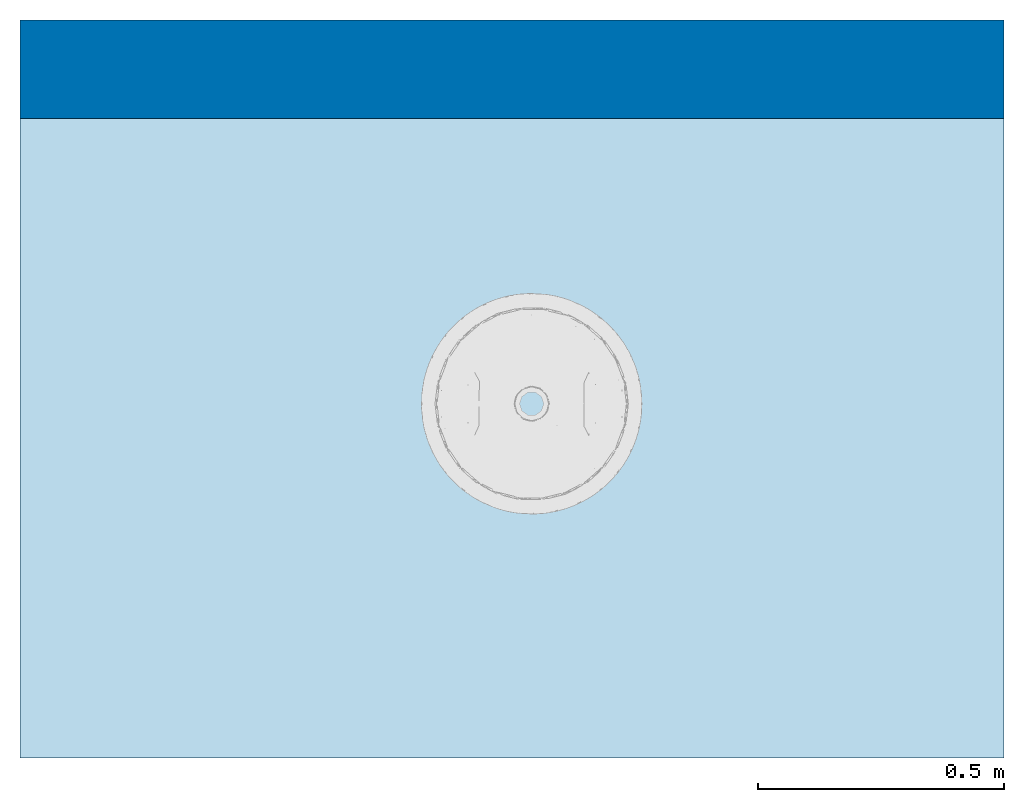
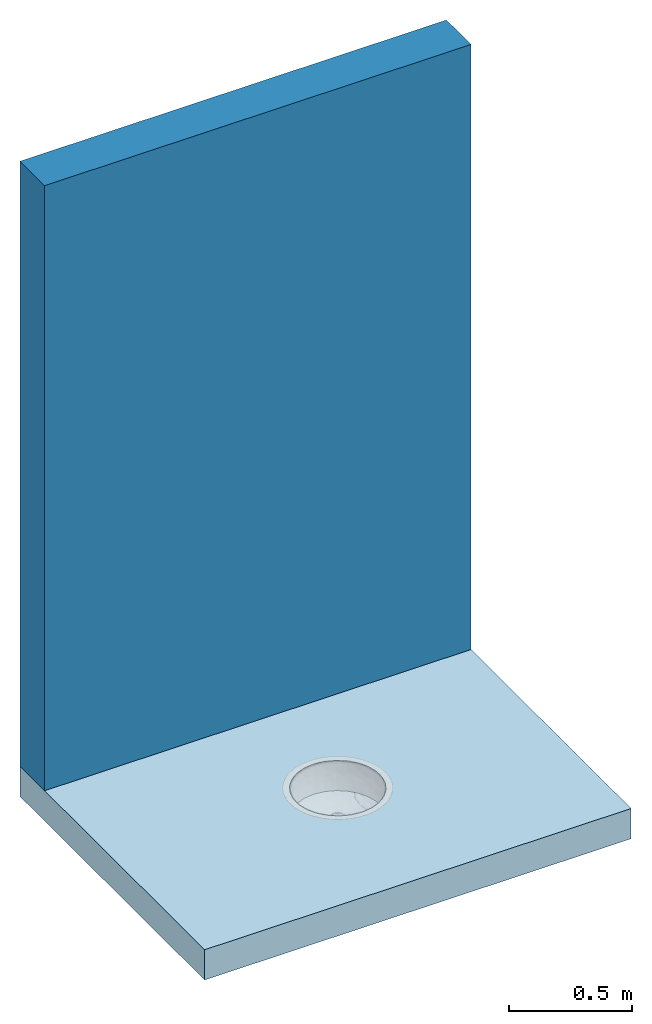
# One storey, incomplete: 1 slab, 1 wall, 1 opening.
"""IFC2X3 building model written with IfcOpenShell, lengths in millimetres."""

from ifc_helpers import new_model, entity, si_unit, converted_unit, derived_unit, direction, frame, frame_2d, origin, place, context, subcontext, project, spatial, rectangle, extrude, faceted_brep, material, layer, layer_set, layer_usage, type_object, element, save


model = new_model("IFC2X3")

# Units and contexts
model_context = context("Model", 3, precision=0.01, world=origin(), true_north=direction((6.12303176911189e-17, 1.0)))
context_of_model = context(None, 3, precision=0.01, world=origin(), true_north=direction((6.12303176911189e-17, 1.0)))
body_context = subcontext(model_context, "Body", "Model", "MODEL_VIEW")
ifc_project = project(units=[si_unit("LENGTHUNIT", "METRE", prefix="MILLI"), si_unit("AREAUNIT", "SQUARE_METRE"), si_unit("VOLUMEUNIT", "CUBIC_METRE"), converted_unit("PLANEANGLEUNIT", "DEGREE", entity("IfcRatioMeasure", 0.0174532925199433), si_unit("PLANEANGLEUNIT", "RADIAN"), dimensions=[0, 0, 0, 0, 0, 0, 0]), si_unit("MASSUNIT", "GRAM", prefix="KILO"), si_unit("TIMEUNIT", "SECOND"), si_unit("FREQUENCYUNIT", "HERTZ"), si_unit("THERMODYNAMICTEMPERATUREUNIT", "DEGREE_CELSIUS"), derived_unit("THERMALTRANSMITTANCEUNIT", [(si_unit("MASSUNIT", "GRAM", prefix="KILO"), 1), (si_unit("THERMODYNAMICTEMPERATUREUNIT", "KELVIN"), -1), (si_unit("TIMEUNIT", "SECOND"), -3)]), derived_unit("VOLUMETRICFLOWRATEUNIT", [(si_unit("LENGTHUNIT", "METRE"), 3), (si_unit("TIMEUNIT", "SECOND"), -1)]), si_unit("ELECTRICCURRENTUNIT", "AMPERE"), si_unit("ELECTRICVOLTAGEUNIT", "VOLT"), si_unit("POWERUNIT", "WATT"), si_unit("FORCEUNIT", "NEWTON", prefix="KILO"), si_unit("ILLUMINANCEUNIT", "LUX"), si_unit("LUMINOUSFLUXUNIT", "LUMEN"), si_unit("LUMINOUSINTENSITYUNIT", "CANDELA"), derived_unit("USERDEFINED", [(si_unit("MASSUNIT", "GRAM", prefix="KILO"), -1), (si_unit("LENGTHUNIT", "METRE"), -2), (si_unit("TIMEUNIT", "SECOND"), 3), (si_unit("LUMINOUSFLUXUNIT", "LUMEN"), 1)]), derived_unit("LINEARVELOCITYUNIT", [(si_unit("LENGTHUNIT", "METRE"), 1), (si_unit("TIMEUNIT", "SECOND"), -1)]), si_unit("PRESSUREUNIT", "PASCAL"), derived_unit("USERDEFINED", [(si_unit("LENGTHUNIT", "METRE"), -2), (si_unit("MASSUNIT", "GRAM", prefix="KILO"), 1), (si_unit("TIMEUNIT", "SECOND"), -2)])], contexts=[model_context, context_of_model])

# Site, building, storey
site_placement = place(None, origin())
site = spatial("IfcSite", under=ifc_project, at=site_placement, Name="Default", CompositionType="ELEMENT")
building_placement = place(site_placement, origin())
building = spatial("IfcBuilding", under=site, at=building_placement, CompositionType="ELEMENT")
storey_placement = place(building_placement, origin())
storey = spatial("IfcBuildingStorey", under=building, at=storey_placement, Name="Level 1", CompositionType="ELEMENT", Elevation=0.0)

# Slab, opening
ifc_material_1 = material(Name="Default Floor")
ifc_layer_1 = layer(ifc_material_1, 150.0)
ifc_layer_set_1 = layer_set([ifc_layer_1], Name="Floor:Generic 150mm")
ifc_layer_usage_1 = layer_usage(ifc_layer_set_1, "AXIS3", "POSITIVE", 0.0)
slab_placement = place(storey_placement, frame((-2743.87269428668, -503.730720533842, -150.0)))
slab = element("IfcSlab", 1, at=slab_placement, inside=storey, material=ifc_layer_usage_1, Name="Floor:Generic 150mm", ObjectType="Floor:Generic 150mm", PredefinedType="FLOOR", context=body_context, shape_type="SweptSolid", body=[
    extrude(rectangle(XDim=1500.0, YDim=1999.99999999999, at=frame_2d((0.0, 0.0), x_axis=(0.0, -1.0))), frame((1000.0, 750.0, 150.0), z_axis=(0.0, 0.0, -1.0), x_axis=(-1.0, 0.0, 0.0)), (0.0, 0.0, 1.0), 150.0),
])
opening_placement = place(slab_placement, frame((843.288803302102, 521.85573988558, 0.999996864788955)))
element("IfcOpeningElement", 2, at=opening_placement, cuts=slab, ObjectType="Opening", context=body_context, shape_type="Brep", body=[
    faceted_brep([(105.370327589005, 24.1087744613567, 0.0), (66.3751093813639, 51.0252301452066, 0.0), (196.711196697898, 198.144260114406, 0.0), (149.673945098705, 7.30662861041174, 0.0), (34.9545508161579, 86.4917090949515, 0.0), (12.9347005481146, 128.447028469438, 0.0), (1.59527223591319, 174.452897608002, 0.0), (196.711196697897, 1.59527223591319, 0.0), (66.3751093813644, 345.263290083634, 0.0), (105.370327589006, 372.179745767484, 0.0), (149.673945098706, 388.981891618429, 0.0), (196.711196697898, 394.693247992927, 0.0), (12.9347005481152, 267.841491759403, 0.0), (1.59527223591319, 221.83562262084, 0.0), (34.9545508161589, 309.796811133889, 0.0), (358.467842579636, 86.4917090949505, 0.0), (327.04728401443, 51.0252301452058, 0.0), (380.48769284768, 128.447028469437, 0.0), (288.052065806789, 24.1087744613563, 0.0), (243.748448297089, 7.30662861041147, 0.0), (391.827121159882, 174.452897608, 0.0), (380.48769284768, 267.841491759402, 0.0), (391.827121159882, 221.835622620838, 0.0), (358.467842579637, 309.796811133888, 0.0), (327.047284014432, 345.263290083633, 0.0), (243.748448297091, 388.981891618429, 0.0), (288.05206580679, 372.179745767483, 0.0), (196.7111966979, 394.693247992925, 151.00000823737), (149.673945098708, 388.981891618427, 151.00000823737), (12.9347005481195, 267.841491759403, 151.000008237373), (34.9545508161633, 309.796811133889, 151.000008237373), (1.59527223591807, 221.835622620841, 151.000008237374), (105.370327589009, 372.179745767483, 151.000008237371), (66.3751093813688, 345.263290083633, 151.000008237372), (1.59527223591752, 174.452897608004, 151.000008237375), (12.9347005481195, 128.447028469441, 151.000008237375), (34.9545508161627, 86.4917090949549, 151.000008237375), (149.673945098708, 7.30662861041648, 151.000008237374), (105.370327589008, 24.1087744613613, 151.000008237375), (66.3751093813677, 51.0252301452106, 151.000008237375), (196.711196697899, 1.59527223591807, 151.000008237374), (243.74844829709, 7.30662861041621, 151.000008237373), (288.052065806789, 24.1087744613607, 151.000008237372), (380.487692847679, 128.447028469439, 151.00000823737), (358.467842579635, 86.4917090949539, 151.000008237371), (327.04728401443, 51.0252301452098, 151.000008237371), (391.827121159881, 174.452897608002, 151.000008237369), (391.827121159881, 221.83562262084, 151.000008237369), (380.487692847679, 267.841491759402, 151.000008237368), (358.467842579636, 309.796811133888, 151.000008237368), (243.748448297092, 388.981891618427, 151.000008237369), (288.052065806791, 372.179745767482, 151.000008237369), (327.047284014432, 345.263290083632, 151.000008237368), (196.7111966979, 198.144260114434, 151.000008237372)], [[[0, 1, 2]], [[0, 2, 3]], [[2, 1, 4]], [[2, 4, 5]], [[6, 2, 5]], [[7, 3, 2]], [[8, 9, 2]], [[10, 2, 9]], [[2, 10, 11]], [[12, 2, 13]], [[2, 12, 14]], [[2, 14, 8]], [[6, 13, 2]], [[15, 16, 2]], [[15, 2, 17]], [[2, 18, 19]], [[2, 16, 18]], [[2, 19, 7]], [[2, 20, 17]], [[21, 22, 2]], [[2, 23, 21]], [[23, 2, 24]], [[25, 26, 2]], [[24, 2, 26]], [[2, 11, 25]], [[20, 2, 22]], [[10, 27, 11]], [[9, 28, 10]], [[14, 12, 29]], [[8, 14, 30]], [[12, 13, 31]], [[8, 32, 9]], [[9, 32, 28]], [[28, 27, 10]], [[32, 8, 33]], [[29, 30, 14]], [[12, 31, 29]], [[30, 33, 8]], [[13, 34, 31]], [[35, 6, 5]], [[4, 36, 5]], [[0, 3, 37]], [[38, 1, 0]], [[39, 4, 1]], [[40, 3, 7]], [[6, 35, 34]], [[5, 36, 35]], [[4, 39, 36]], [[1, 38, 39]], [[37, 38, 0]], [[3, 40, 37]], [[6, 34, 13]], [[41, 7, 19]], [[18, 42, 19]], [[15, 17, 43]], [[44, 16, 15]], [[45, 18, 16]], [[46, 17, 20]], [[7, 41, 40]], [[19, 42, 41]], [[18, 45, 42]], [[16, 44, 45]], [[43, 44, 15]], [[17, 46, 43]], [[20, 47, 46]], [[48, 22, 21]], [[23, 49, 21]], [[26, 25, 50]], [[51, 24, 26]], [[52, 23, 24]], [[27, 25, 11]], [[22, 48, 47]], [[21, 49, 48]], [[23, 52, 49]], [[24, 51, 52]], [[50, 51, 26]], [[25, 27, 50]], [[22, 47, 20]], [[53, 39, 38]], [[37, 53, 38]], [[36, 39, 53]], [[35, 36, 53]], [[35, 53, 34]], [[53, 37, 40]], [[53, 32, 33]], [[32, 53, 28]], [[27, 28, 53]], [[31, 53, 29]], [[30, 29, 53]], [[33, 30, 53]], [[53, 31, 34]], [[53, 45, 44]], [[43, 53, 44]], [[41, 42, 53]], [[42, 45, 53]], [[40, 41, 53]], [[43, 46, 53]], [[53, 47, 48]], [[48, 49, 53]], [[52, 53, 49]], [[53, 51, 50]], [[51, 53, 52]], [[50, 27, 53]], [[47, 53, 46]]]),
])

# Wall
ifc_material_2 = material(Name="Default Wall")
ifc_layer_2 = layer(ifc_material_2, 200.0)
ifc_layer_set_2 = layer_set([ifc_layer_2], Name="Basic Wall:Generic - 200mm")
ifc_layer_usage_2 = layer_usage(ifc_layer_set_2, "AXIS2", "NEGATIVE", 100.0)
wall_type = type_object("IfcWallType", Name="Basic Wall:Generic - 200mm", PredefinedType="STANDARD", material=ifc_layer_set_2)
wall_placement = place(storey_placement, frame((-2743.87269428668, 896.269279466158, 0.0)))
element("IfcWallStandardCase", 3, at=wall_placement, inside=storey, type_object=wall_type, material=ifc_layer_usage_2, Name="Basic Wall:Generic - 200mm", ObjectType="Basic Wall:Generic - 200mm:398", context=body_context, shape_type="SweptSolid", body=[
    extrude(rectangle(XDim=2000.0, YDim=200.0, at=frame_2d((1000.0, 2.8421709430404e-14), x_axis=(-1.0, 0.0))), origin(), (0.0, 0.0, 1.0), 3000.0),
])

save(model, "model.ifc")
